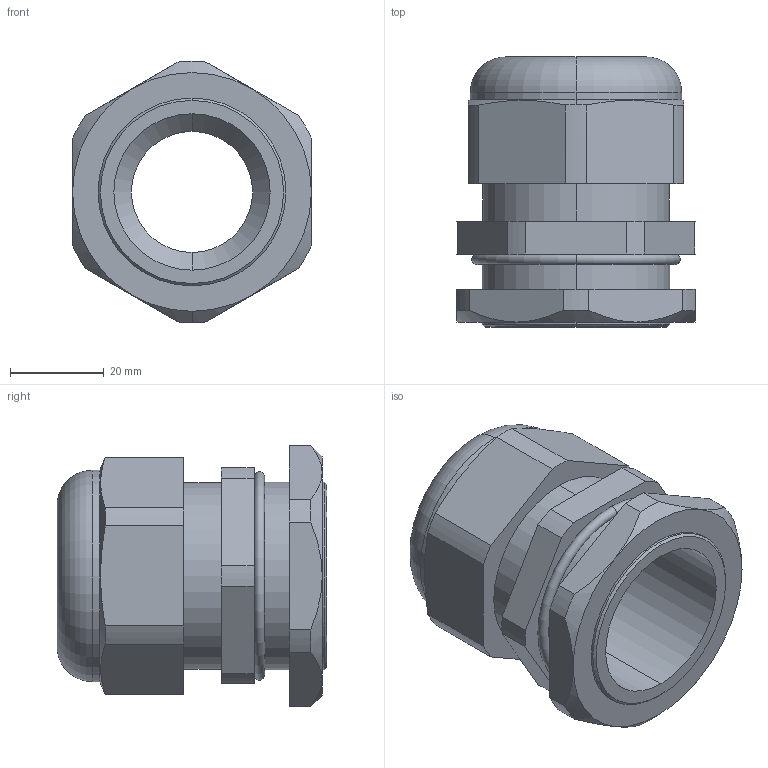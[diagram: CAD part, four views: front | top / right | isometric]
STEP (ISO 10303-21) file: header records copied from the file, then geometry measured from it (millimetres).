
FILE_DESCRIPTION (( 'STEP AP203' ), '1' );
FILE_NAME ('CH-M40.STEP', '2018-02-07T14:43:07', ( '' ), ( '' ), 'SwSTEP 2.0', 'SolidWorks 2012', '' );
FILE_SCHEMA (( 'CONFIG_CONTROL_DESIGN' ));
Length unit declared in the file: millimetre
Products named in the file (1): CH-M40
Bounding box: 50.85 x 57.5 x 55.78 mm (x, y, z)
Volume: 52709.3 mm3; surface area: 18945.7 mm2
Topology: 1 solids, 1 shells, 78 faces, 189 edges, 118 vertices
Faces by surface type: cylinder 34, plane 25, cone 15, torus 4
Entity records: 2486 total; most frequent: CARTESIAN_POINT 540, DIRECTION 415, ORIENTED_EDGE 378, EDGE_CURVE 189, AXIS2_PLACEMENT_3D 165, VERTEX_POINT 118, CIRCLE 86, VECTOR 85
